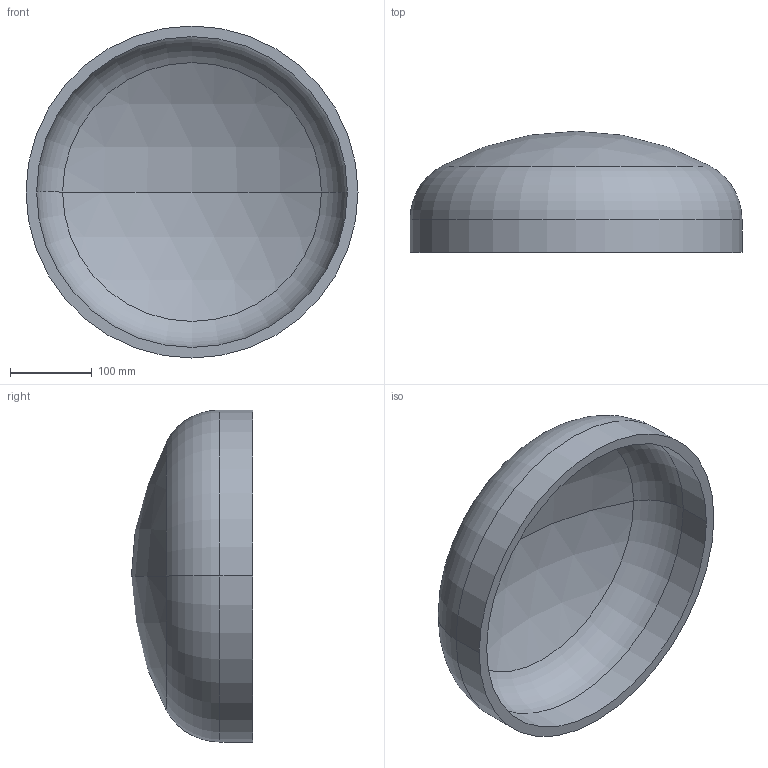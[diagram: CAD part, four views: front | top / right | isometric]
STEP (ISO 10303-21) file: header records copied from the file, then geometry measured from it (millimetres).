
FILE_DESCRIPTION (( 'STEP AP203' ), '1' );
FILE_NAME ('DIN 28013 Korbbogenform_-_Boden DIN 28013 - 406,4 x 40 - I - s=13.step', '2016-07-01T07:49:06', ( '' ), ( '' ), 'SwSTEP 2.0', 'SolidWorks 2013', '' );
FILE_SCHEMA (( 'CONFIG_CONTROL_DESIGN' ));
Length unit declared in the file: millimetre
Products named in the file (1): DIN 28013 Korbbogenform_-_Boden DIN 28013 - 406,4 x 40 - I - s=13
Bounding box: 406.4 x 148.36 x 406.4 mm (x, y, z)
Volume: 2878606.2 mm3; surface area: 459283.1 mm2
Topology: 1 solids, 1 shells, 13 faces, 24 edges, 14 vertices
Faces by surface type: torus 4, cylinder 4, sphere 4, plane 1
Entity records: 407 total; most frequent: DIRECTION 72, CARTESIAN_POINT 52, ORIENTED_EDGE 48, AXIS2_PLACEMENT_3D 34, EDGE_CURVE 24, CIRCLE 20, VERTEX_POINT 14, EDGE_LOOP 14
